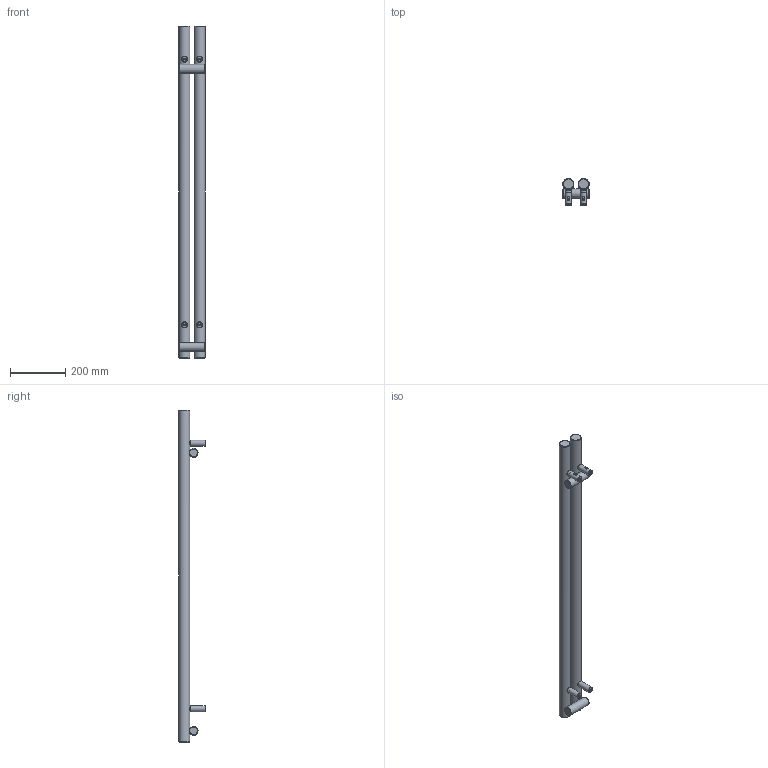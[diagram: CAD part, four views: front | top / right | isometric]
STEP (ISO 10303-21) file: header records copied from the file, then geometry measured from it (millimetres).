
FILE_DESCRIPTION(/* description */ (''),/* implementation_level */ '2;1');
FILE_NAME(/* name */ 'Z:\R\G\P\RGP116 - Grzejniki Geyser\Work\Inventor\Circolo (Rolo V, Rolo H)\ROLO-ROOM\Marketing\Bryły 3D\Zaokrąglone\WLROR120009-ES-CK-(Z).stp',/* time_stamp */ '2024-04-03T09:05:20+02:00',/* author */ ('NowAd'),/* organization */ (''),/* preprocessor_version */ 'ST-DEVELOPER v17.2',/* originating_system */ 'Autodesk Inventor 2019',/* authorisation */ '');
FILE_SCHEMA (('AUTOMOTIVE_DESIGN { 1 0 10303 214 3 1 1 }'));
Length unit declared in the file: millimetre
Products named in the file (3): WLROR120009-ES-CK-(Z); PGROR120009-ES-CK-(K); CK-V-fi40 marketing
Assembly tree (5 placements, depth 2):
  WLROR120009-ES-CK-(Z)
    PGROR120009-ES-CK-(K)
    CK-V-fi40 marketing  x4
Bounding box: 95 x 96.5 x 1200 mm (x, y, z)
Volume: 3211725.9 mm3; surface area: 359104.3 mm2
Topology: 5 solids, 5 shells, 296 faces, 754 edges, 504 vertices
Faces by surface type: plane 126, cylinder 70, cone 60, torus 36, bspline 4
Full cylindrical faces by diameter (mm): 4.134 x4, 4.48 x4, 6.4 x4, 10 x4, 12 x4, 15.834 x4, 16 x4, 18.631 x2, 22 x4, 32 x2, 40 x2
Entity records: 4660 total; most frequent: CARTESIAN_POINT 1883, DIRECTION 583, ORIENTED_EDGE 546, EDGE_CURVE 273, AXIS2_PLACEMENT_3D 256, VERTEX_POINT 186, EDGE_LOOP 139, CIRCLE 131
